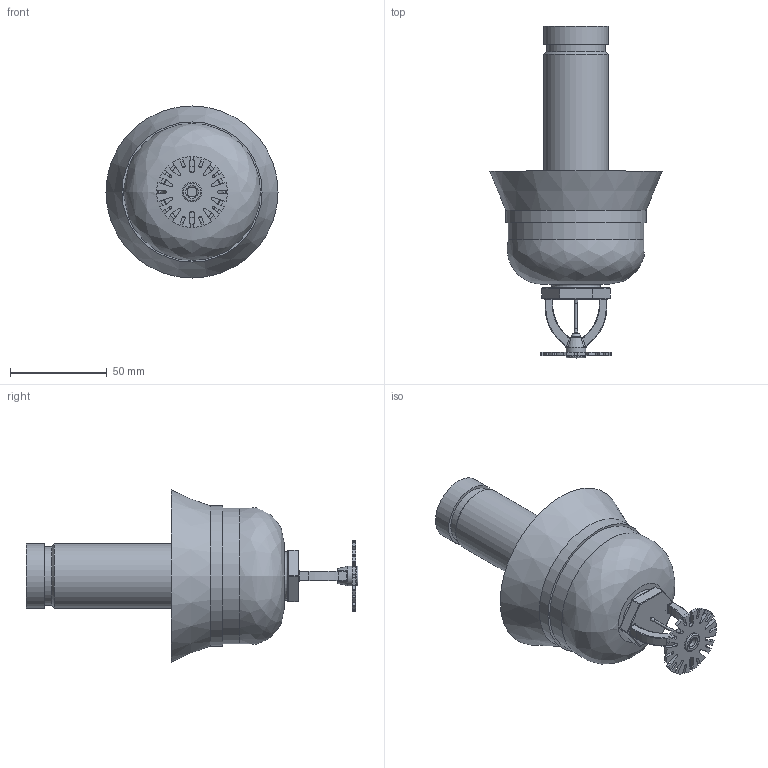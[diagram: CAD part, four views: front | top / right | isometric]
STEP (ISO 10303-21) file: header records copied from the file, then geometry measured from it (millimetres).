
FILE_DESCRIPTION(/* description */ ('VIC SPRINKLER V3614 K5.6 DRY PENDENT QUICK RESPONSE (IGS)'),/* implementation_level */ '2;1');
FILE_NAME(/* name */ 'C:\Users\Public\Documents\Victaulic.Temp\A572\Victaulic_FP-Sprinkler_V3614_DRY_QR_Pendent (IGS)_EXT_1 (25).stp',/* time_stamp */ '2024-09-24T08:13:36+02:00',/* author */ ('kkamble'),/* organization */ ('Victaulic'),/* preprocessor_version */ 'ST-DEVELOPER v18',/* originating_system */ 'Autodesk Inventor 2020',/* authorisation */ '');
FILE_SCHEMA (('AUTOMOTIVE_DESIGN { 1 0 10303 214 3 1 1 }'));
Length unit declared in the file: inch
Products named in the file (2): V3614_Exteded-01.0; V3614_Extented
Assembly tree (1 placements, depth 2):
  V3614_Exteded-01.0
    V3614_Extented
Bounding box: 88.9 x 171.45 x 88.9 mm (x, y, z)
Volume: 71486.6 mm3; surface area: 62120.1 mm2
Topology: 1 solids, 1 shells, 330 faces, 856 edges, 533 vertices
Faces by surface type: cylinder 110, plane 103, bspline 71, torus 26, sphere 12, cone 8
Full cylindrical faces by diameter (mm): 1.27 x1, 5.08 x2, 10.16 x2, 20.93 x1, 26.645 x1, 30.226 x1, 33.401 x2, 67.31 x1, 69.85 x2, 72.39 x1
Entity records: 11850 total; most frequent: CARTESIAN_POINT 3524, ORIENTED_EDGE 1704, DIRECTION 1624, EDGE_CURVE 852, AXIS2_PLACEMENT_3D 630, VERTEX_POINT 533, LINE 364, VECTOR 364
